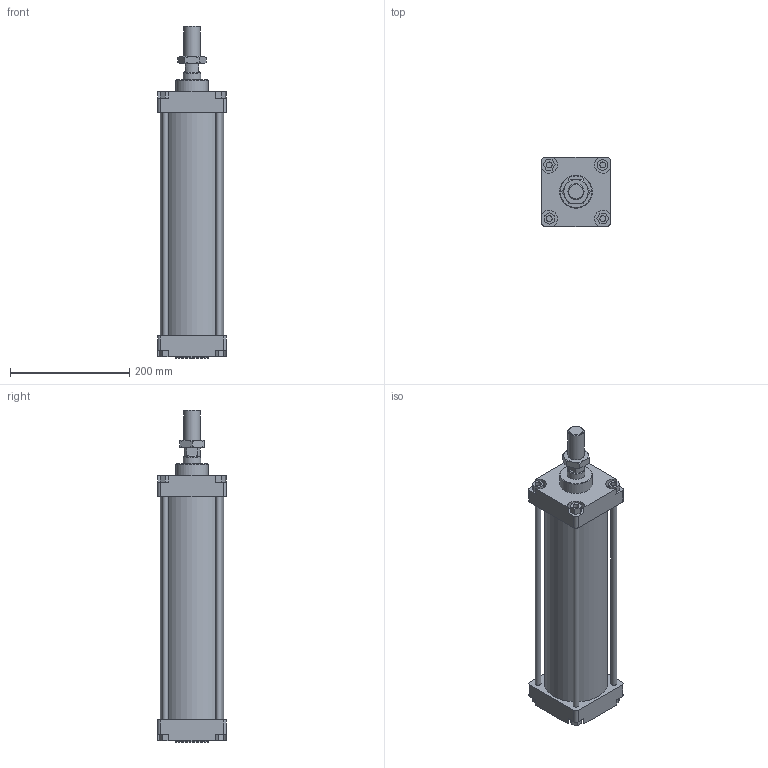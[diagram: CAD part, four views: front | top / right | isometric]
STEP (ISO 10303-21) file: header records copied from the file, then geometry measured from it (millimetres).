
FILE_DESCRIPTION(/* description */ (''),/* implementation_level */ '2;1');
FILE_NAME(/* name */ 'I:\Area Tecnica\Disegni\VARIE-3D\Componenti\CSP\Ø100\130#_100_####_###\1303_100_0300_01A.stp',/* time_stamp */ '2016-11-24T14:04:49+01:00',/* author */ ('Maniean1'),/* organization */ ('Pneumax S.p.A.'),/* preprocessor_version */ 'ST-DEVELOPER v15.2',/* originating_system */ 'Autodesk Inventor 2014',/* authorisation */ '');
FILE_SCHEMA (('AUTOMOTIVE_DESIGN { 1 0 10303 214 3 1 1 }'));
Length unit declared in the file: millimetre
Products named in the file (6): C_130#_100_0300; Testata anteriore_100; Testata posteriore_100; S_1303_100_0300_01A; 1300_100_18F; 1303_100_0300_01A
Bounding box: 115 x 115 x 557 mm (x, y, z)
Volume: 2232392.2 mm3; surface area: 489028.7 mm2
Topology: 9 solids, 9 shells, 162 faces, 380 edges, 249 vertices
Faces by surface type: plane 105, cylinder 42, cone 15
Full cylindrical faces by diameter (mm): 10 x12, 19 x2, 21.8 x1, 24.835 x1, 27 x1, 28 x1, 30 x3, 55 x2, 100 x2, 106 x1
Entity records: 4530 total; most frequent: CARTESIAN_POINT 785, DIRECTION 764, ORIENTED_EDGE 672, EDGE_CURVE 336, AXIS2_PLACEMENT_3D 271, VERTEX_POINT 244, EDGE_LOOP 236, LINE 222
